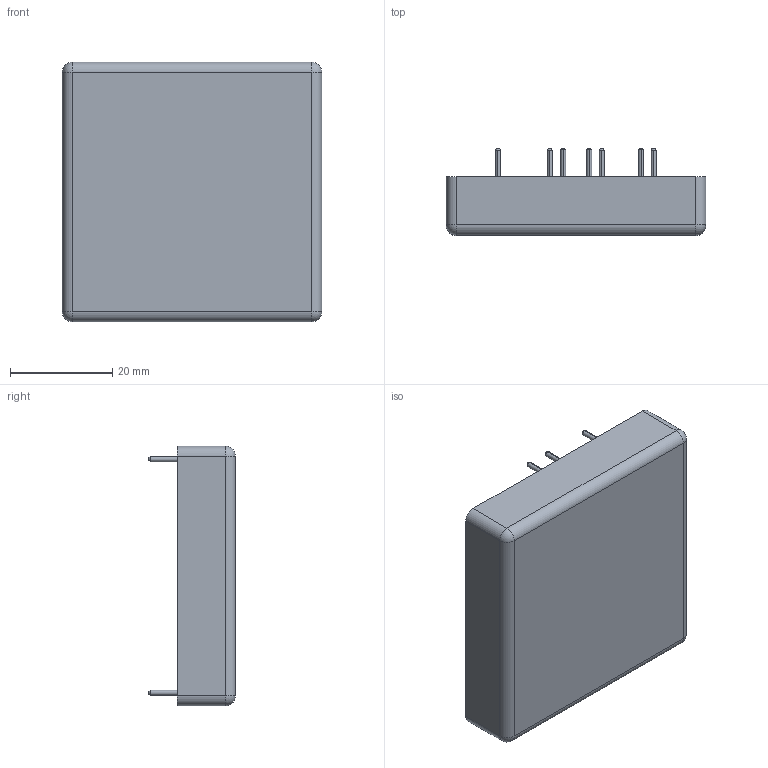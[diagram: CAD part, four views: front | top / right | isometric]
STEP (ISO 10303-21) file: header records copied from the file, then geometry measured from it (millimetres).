
FILE_DESCRIPTION (( 'STEP AP214' ), '1' );
FILE_NAME ('EC5C示意圖.STEP', '2018-01-09T06:52:55', ( 'cincon' ), ( '' ), 'SwSTEP 2.0', 'SolidWorks 2008', '' );
FILE_SCHEMA (( 'AUTOMOTIVE_DESIGN' ));
Length unit declared in the file: millimetre
Products named in the file (1): EC5C示意圖
Bounding box: 50.8 x 17 x 50.8 mm (x, y, z)
Volume: 29242.6 mm3; surface area: 7380.6 mm2
Topology: 1 solids, 1 shells, 53 faces, 110 edges, 62 vertices
Faces by surface type: cylinder 22, cone 14, plane 13, sphere 4
Entity records: 1393 total; most frequent: DIRECTION 272, CARTESIAN_POINT 222, ORIENTED_EDGE 212, AXIS2_PLACEMENT_3D 112, EDGE_CURVE 106, VERTEX_POINT 62, EDGE_LOOP 60, CIRCLE 58
